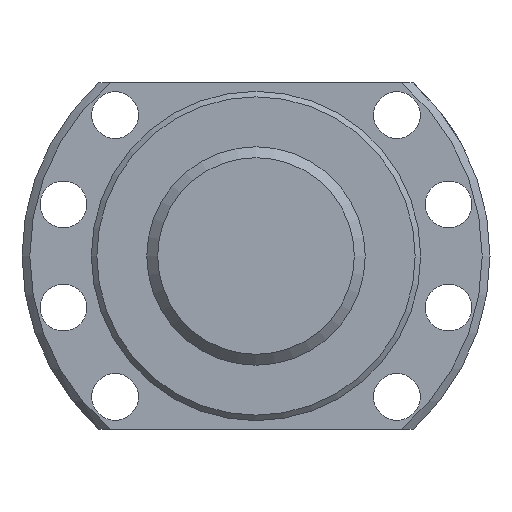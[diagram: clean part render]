
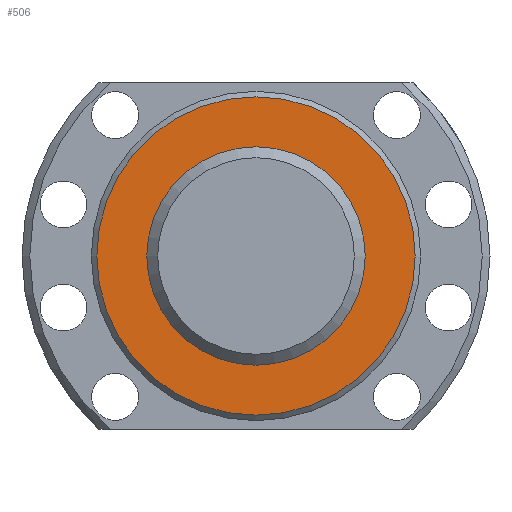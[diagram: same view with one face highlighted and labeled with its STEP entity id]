
A CAD part, left-side view. The second image highlights one B-rep face of the part: STEP entity #506.
In plain terms, the highlighted planar face has unit normal (-1, 0, 0).
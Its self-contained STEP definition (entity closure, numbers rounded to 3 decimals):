
#30=PLANE('',#574);
#63=CIRCLE('',#570,31.5);
#66=CIRCLE('',#575,45.917);
#117=ORIENTED_EDGE('',*,*,#223,.T.);
#118=ORIENTED_EDGE('',*,*,#229,.F.);
#223=EDGE_CURVE('',#278,#278,#63,.T.);
#229=EDGE_CURVE('',#284,#284,#66,.T.);
#278=VERTEX_POINT('',#846);
#284=VERTEX_POINT('',#870);
#341=EDGE_LOOP('',(#117));
#342=EDGE_LOOP('',(#118));
#417=FACE_BOUND('',#341,.T.);
#418=FACE_BOUND('',#342,.T.);
#506=ADVANCED_FACE('',(#417,#418),#30,.T.);
#570=AXIS2_PLACEMENT_3D('',#845,#658,#659);
#574=AXIS2_PLACEMENT_3D('',#868,#668,#669);
#575=AXIS2_PLACEMENT_3D('',#869,#670,#671);
#658=DIRECTION('',(1.,0.,0.));
#659=DIRECTION('',(0.,0.,-1.));
#668=DIRECTION('',(-1.,0.,0.));
#669=DIRECTION('',(0.,0.,1.));
#670=DIRECTION('',(1.,0.,0.));
#671=DIRECTION('',(0.,0.,-1.));
#845=CARTESIAN_POINT('',(0.,0.,0.));
#846=CARTESIAN_POINT('',(0.,0.,-31.5));
#868=CARTESIAN_POINT('',(0.,45.917,0.));
#869=CARTESIAN_POINT('',(0.,0.,0.));
#870=CARTESIAN_POINT('',(0.,0.,-45.917));
